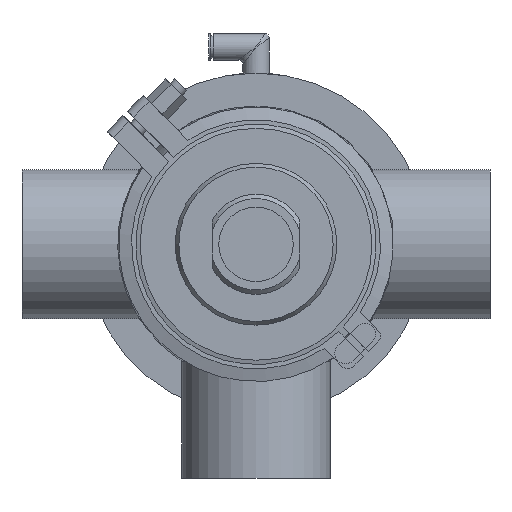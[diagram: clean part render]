
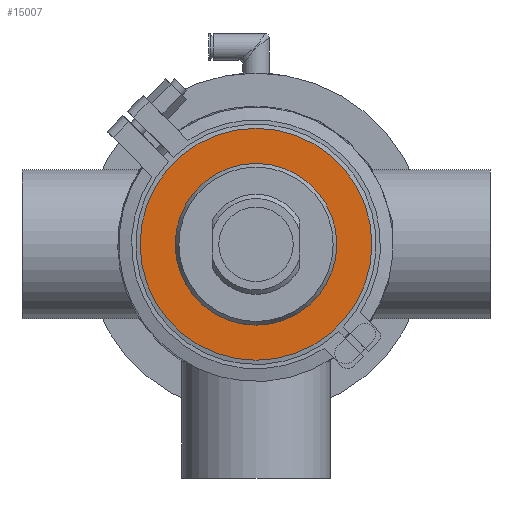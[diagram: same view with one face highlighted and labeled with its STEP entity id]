
A CAD part, front view. The second image highlights one B-rep face of the part: STEP entity #15007.
In plain terms, the highlighted planar face has unit normal (0, -1, 0).
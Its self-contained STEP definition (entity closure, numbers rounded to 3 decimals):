
#1630 = FACE_OUTER_BOUND ( 'NONE', #20272, .T. ) ;
#4921 = DIRECTION ( 'NONE',  ( 0., 1., 0. ) ) ;
#6142 = EDGE_CURVE ( 'NONE', #8730, #8730, #17156, .T. ) ;
#6507 = DIRECTION ( 'NONE',  ( 0., 0., -1. ) ) ;
#6729 = CIRCLE ( 'NONE', #19432, 38. ) ;
#6957 = CARTESIAN_POINT ( 'NONE',  ( 0., -13., 0. ) ) ;
#7066 = AXIS2_PLACEMENT_3D ( 'NONE', #6957, #13759, #20995 ) ;
#8730 = VERTEX_POINT ( 'NONE', #20780 ) ;
#10384 = ORIENTED_EDGE ( 'NONE', *, *, #6142, .F. ) ;
#10611 = DIRECTION ( 'NONE',  ( 0., -1., 0. ) ) ;
#13262 = EDGE_LOOP ( 'NONE', ( #22994 ) ) ;
#13759 = DIRECTION ( 'NONE',  ( 0., 1., 0. ) ) ;
#13802 = CARTESIAN_POINT ( 'NONE',  ( 0., -13., 0. ) ) ;
#15007 = ADVANCED_FACE ( 'NONE', ( #22996, #1630 ), #21228, .T. ) ;
#16649 = CARTESIAN_POINT ( 'NONE',  ( 0., -13., 38. ) ) ;
#17156 = CIRCLE ( 'NONE', #7066, 54.5 ) ;
#17635 = EDGE_CURVE ( 'NONE', #20144, #20144, #6729, .T. ) ;
#19083 = AXIS2_PLACEMENT_3D ( 'NONE', #19480, #10611, #6507 ) ;
#19432 = AXIS2_PLACEMENT_3D ( 'NONE', #13802, #4921, #20917 ) ;
#19480 = CARTESIAN_POINT ( 'NONE',  ( -54.5, -13., 0. ) ) ;
#20144 = VERTEX_POINT ( 'NONE', #16649 ) ;
#20272 = EDGE_LOOP ( 'NONE', ( #10384 ) ) ;
#20780 = CARTESIAN_POINT ( 'NONE',  ( 0., -13., 54.5 ) ) ;
#20917 = DIRECTION ( 'NONE',  ( 0., 0., 1. ) ) ;
#20995 = DIRECTION ( 'NONE',  ( 0., 0., 1. ) ) ;
#21228 = PLANE ( 'NONE',  #19083 ) ;
#22994 = ORIENTED_EDGE ( 'NONE', *, *, #17635, .T. ) ;
#22996 = FACE_BOUND ( 'NONE', #13262, .T. ) ;
